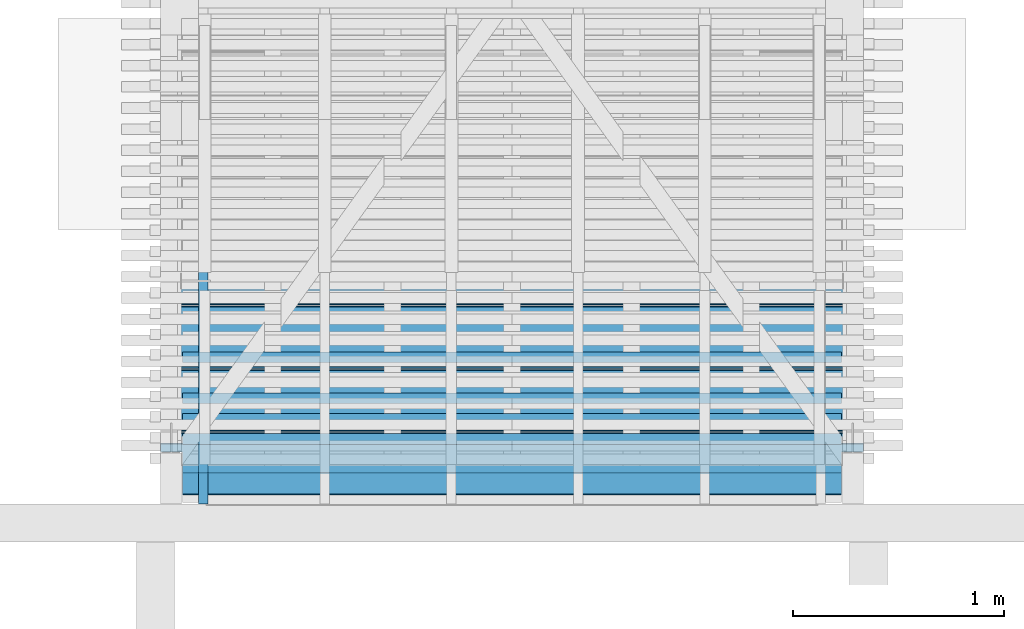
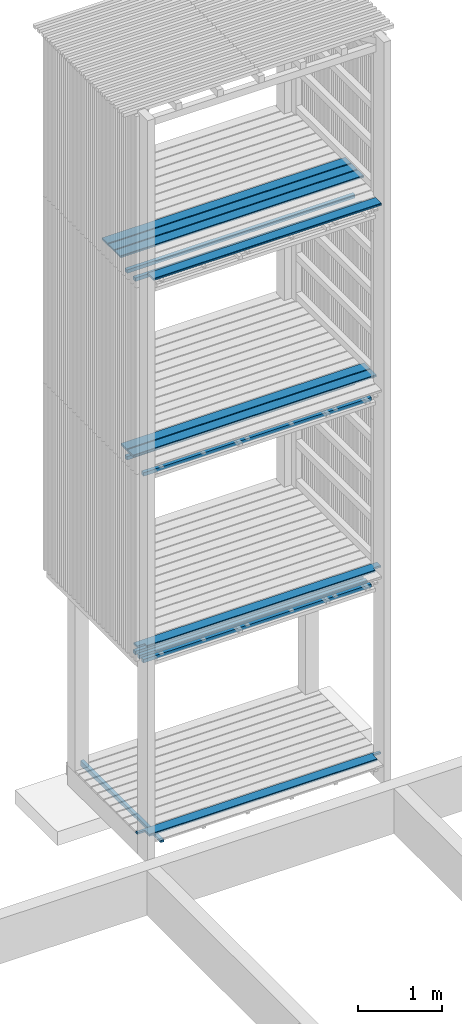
# One storey, part 137 of 182: 16 beams.
"""IFC2X3 building model written with IfcOpenShell, lengths in metres."""

from ifc_helpers import new_model, si_unit, frame, origin, place, context, project, spatial, faceted_brep, element, save


model = new_model("IFC2X3")

# Units and contexts
model_context = context("Model", 3, precision=1e-06, world=origin())
ifc_project = project(units=[si_unit("LENGTHUNIT", "METRE"), si_unit("PLANEANGLEUNIT", "RADIAN")], contexts=[model_context])

# Site, building, storey
site = spatial("IfcSite", under=ifc_project, CompositionType="ELEMENT")
building = spatial("IfcBuilding", under=site, CompositionType="ELEMENT")
storey = spatial("IfcBuildingStorey", under=building, Name="vs", CompositionType="ELEMENT", Elevation=-0.85)

# Beams
placement = place(None, origin())
beam_1_placement = place(placement, frame((36.27999999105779, 10.970702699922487, 7.867999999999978), z_axis=(0.0, 0.0, 1.0), x_axis=(-1.0, 0.0, 0.0)))
element("IfcBeam", 1, at=beam_1_placement, inside=storey, Name="Bardage", context=model_context, shape_type="Brep", body=[
    faceted_brep([(3.120000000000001, 0.024999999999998, -0.025000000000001), (3.120000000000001, -0.025000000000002, -0.025000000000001), (-3e-15, -0.025000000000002, -0.025000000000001), (-3e-15, 0.024999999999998, -0.025000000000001), (-3e-15, -0.025000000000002, -0.025000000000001), (3.120000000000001, -0.025000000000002, -0.025000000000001), (3.120000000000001, -0.025000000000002, 0.024999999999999), (-3e-15, -0.025000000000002, 0.024999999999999), (3.120000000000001, -0.025000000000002, -0.025000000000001), (3.120000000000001, 0.024999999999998, -0.025000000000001), (3.120000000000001, 0.024999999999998, 0.024999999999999), (3.120000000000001, -0.025000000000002, 0.024999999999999), (3.120000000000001, 0.024999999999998, 0.024999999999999), (3.120000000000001, 0.024999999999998, -0.025000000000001), (-3e-15, 0.024999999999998, -0.025000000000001), (-3e-15, 0.024999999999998, 0.024999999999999), (-3e-15, -0.025000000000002, 0.024999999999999), (3.120000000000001, -0.025000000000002, 0.024999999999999), (3.120000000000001, 0.024999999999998, 0.024999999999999), (-3e-15, 0.024999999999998, 0.024999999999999), (-3e-15, -0.025000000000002, -0.025000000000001), (-3e-15, -0.025000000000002, 0.024999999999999), (-3e-15, 0.024999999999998, 0.024999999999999), (-3e-15, 0.024999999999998, -0.025000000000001)], [[[0, 1, 2, 3]], [[4, 5, 6, 7]], [[8, 9, 10, 11]], [[12, 13, 14, 15]], [[16, 17, 18, 19]], [[20, 21, 22, 23]]]),
])
beam_2_placement = place(placement, frame((36.38499999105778, 10.684577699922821, 0.033500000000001), z_axis=(0.0, 0.0, 1.0), x_axis=(-1.0, 0.0, 0.0)))
element("IfcBeam", 2, at=beam_2_placement, inside=storey, Name="Caillebotis", context=model_context, shape_type="Brep", body=[
    faceted_brep([(0.0, -0.072499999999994, -0.0135), (0.0, -0.072499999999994, 0.008500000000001), (0.0, -0.067499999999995, 0.0135), (0.0, -0.030499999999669, 0.0135), (0.0, -0.030499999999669, -0.0135), (3.329999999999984, -0.067499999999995, 0.0135), (3.329999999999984, -0.030499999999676, 0.0135), (3.224999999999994, -0.030499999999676, 0.0135), (3.224999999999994, 0.067500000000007, 0.0135), (0.104999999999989, 0.067500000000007, 0.0135), (0.104999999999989, -0.030499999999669, 0.0135), (0.0, -0.030499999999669, 0.0135), (0.0, -0.067499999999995, 0.0135), (0.104999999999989, -0.030499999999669, 0.0135), (0.104999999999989, 0.067500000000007, 0.0135), (0.104999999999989, 0.072500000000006, 0.0085), (0.104999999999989, 0.072500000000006, -0.0135), (0.104999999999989, -0.030499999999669, -0.0135), (0.104999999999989, 0.072500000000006, 0.0085), (0.104999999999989, 0.067500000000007, 0.0135), (3.224999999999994, 0.067500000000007, 0.0135), (3.224999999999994, 0.072500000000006, 0.0085), (0.104999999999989, 0.072500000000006, -0.0135), (0.104999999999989, 0.072500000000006, 0.0085), (3.224999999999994, 0.072500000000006, 0.0085), (3.224999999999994, 0.072500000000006, -0.013500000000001), (3.224999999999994, 0.072500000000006, -0.013500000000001), (3.224999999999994, 0.072500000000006, 0.0085), (3.224999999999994, 0.067500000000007, 0.0135), (3.224999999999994, -0.030499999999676, 0.0135), (3.224999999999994, -0.030499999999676, -0.013500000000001), (3.224999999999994, -0.030499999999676, -0.013500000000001), (3.224999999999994, -0.030499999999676, 0.0135), (3.329999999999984, -0.030499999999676, 0.0135), (3.329999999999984, -0.030499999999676, -0.013500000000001), (3.329999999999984, -0.072499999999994, 0.008500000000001), (3.329999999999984, -0.072499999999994, -0.013500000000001), (3.329999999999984, -0.030499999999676, -0.013500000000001), (3.329999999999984, -0.030499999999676, 0.0135), (3.329999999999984, -0.067499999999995, 0.0135), (3.329999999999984, -0.072499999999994, 0.008500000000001), (3.329999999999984, -0.067499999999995, 0.0135), (0.0, -0.067499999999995, 0.0135), (0.0, -0.072499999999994, 0.008500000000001), (3.329999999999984, -0.072499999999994, -0.013500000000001), (3.329999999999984, -0.072499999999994, 0.008500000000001), (0.0, -0.072499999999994, 0.008500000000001), (0.0, -0.072499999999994, -0.0135), (0.104999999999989, -0.030499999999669, -0.0135), (0.104999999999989, 0.072500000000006, -0.0135), (3.224999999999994, 0.072500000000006, -0.013500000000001), (3.224999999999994, -0.030499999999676, -0.013500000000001), (3.329999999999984, -0.030499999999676, -0.013500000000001), (3.329999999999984, -0.072499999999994, -0.013500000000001), (0.0, -0.072499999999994, -0.0135), (0.0, -0.030499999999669, -0.0135), (0.0, -0.030499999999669, 0.0135), (0.104999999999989, -0.030499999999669, 0.0135), (0.104999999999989, -0.030499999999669, -0.0135), (0.0, -0.030499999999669, -0.0135)], [[[0, 1, 2, 3, 4]], [[5, 6, 7, 8, 9, 10, 11, 12]], [[13, 14, 15, 16, 17]], [[18, 19, 20, 21]], [[22, 23, 24, 25]], [[26, 27, 28, 29, 30]], [[31, 32, 33, 34]], [[35, 36, 37, 38, 39]], [[40, 41, 42, 43]], [[44, 45, 46, 47]], [[48, 49, 50, 51, 52, 53, 54, 55]], [[56, 57, 58, 59]]]),
])
beam_3_placement = place(placement, frame((36.384999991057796, 11.334577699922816, 8.13349999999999), z_axis=(0.0, 0.0, 1.0), x_axis=(-1.0, 0.0, 0.0)))
element("IfcBeam", 3, at=beam_3_placement, inside=storey, Name="Caillebotis", context=model_context, shape_type="Brep", body=[
    faceted_brep([(3.329999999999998, -0.072499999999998, -0.013500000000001), (3.329999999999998, 0.072500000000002, -0.013500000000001), (3.329999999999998, 0.072500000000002, 0.008499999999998), (3.329999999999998, 0.067500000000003, 0.013499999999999), (3.329999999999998, -0.067500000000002, 0.013499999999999), (3.329999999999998, -0.072499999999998, 0.0085), (0.0, -0.072499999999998, 0.0085), (0.0, -0.067500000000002, 0.013499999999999), (0.0, 0.067500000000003, 0.013499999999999), (0.0, 0.072499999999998, 0.008499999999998), (0.0, 0.072499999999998, -0.013500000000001), (0.0, -0.072499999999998, -0.013500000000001), (3.329999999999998, 0.072500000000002, 0.008499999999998), (3.329999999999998, 0.072500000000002, -0.013500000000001), (0.0, 0.072499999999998, -0.013500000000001), (0.0, 0.072499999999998, 0.008499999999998), (3.329999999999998, 0.067500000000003, 0.013499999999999), (3.329999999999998, 0.072500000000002, 0.008499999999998), (0.0, 0.072499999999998, 0.008499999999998), (0.0, 0.067500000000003, 0.013499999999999), (3.329999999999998, -0.067500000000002, 0.013499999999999), (3.329999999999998, 0.067500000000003, 0.013499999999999), (0.0, 0.067500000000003, 0.013499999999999), (0.0, -0.067500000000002, 0.013499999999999), (3.329999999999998, -0.072499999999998, 0.0085), (3.329999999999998, -0.067500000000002, 0.013499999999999), (0.0, -0.067500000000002, 0.013499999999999), (0.0, -0.072499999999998, 0.0085), (3.329999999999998, -0.072499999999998, -0.013500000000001), (3.329999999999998, -0.072499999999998, 0.0085), (0.0, -0.072499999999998, 0.0085), (0.0, -0.072499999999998, -0.013500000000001), (0.0, 0.072499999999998, -0.013500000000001), (3.329999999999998, 0.072500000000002, -0.013500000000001), (3.329999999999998, -0.072499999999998, -0.013500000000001), (0.0, -0.072499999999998, -0.013500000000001)], [[[0, 1, 2, 3, 4, 5]], [[6, 7, 8, 9, 10, 11]], [[12, 13, 14, 15]], [[16, 17, 18, 19]], [[20, 21, 22, 23]], [[24, 25, 26, 27]], [[28, 29, 30, 31]], [[32, 33, 34, 35]]]),
])
beam_4_placement = place(placement, frame((36.384999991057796, 10.884577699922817, 5.433499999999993), z_axis=(0.0, 0.0, 1.0), x_axis=(-1.0, -2e-15, 0.0)))
element("IfcBeam", 4, at=beam_4_placement, inside=storey, Name="Caillebotis", context=model_context, shape_type="Brep", body=[
    faceted_brep([(3.329999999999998, -0.072500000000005, -0.0135), (3.329999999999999, 0.072499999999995, -0.0135), (3.329999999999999, 0.072499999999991, 0.0085), (3.329999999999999, 0.067499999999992, 0.0135), (3.329999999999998, -0.067500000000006, 0.0135), (3.329999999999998, -0.072500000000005, 0.008500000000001), (0.0, -0.072500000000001, 0.008500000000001), (0.0, -0.067499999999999, 0.0135), (0.0, 0.067500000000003, 0.0135), (0.0, 0.072500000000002, 0.0085), (0.0, 0.072500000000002, -0.0135), (0.0, -0.072500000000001, -0.0135), (3.329999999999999, 0.072499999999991, 0.0085), (3.329999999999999, 0.072499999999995, -0.0135), (0.0, 0.072500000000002, -0.0135), (0.0, 0.072500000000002, 0.0085), (3.329999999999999, 0.067499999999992, 0.0135), (3.329999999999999, 0.072499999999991, 0.0085), (0.0, 0.072500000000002, 0.0085), (0.0, 0.067500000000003, 0.0135), (3.329999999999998, -0.067500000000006, 0.0135), (3.329999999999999, 0.067499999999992, 0.0135), (0.0, 0.067500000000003, 0.0135), (0.0, -0.067499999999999, 0.0135), (3.329999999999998, -0.072500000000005, 0.008500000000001), (3.329999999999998, -0.067500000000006, 0.0135), (0.0, -0.067499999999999, 0.0135), (0.0, -0.072500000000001, 0.008500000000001), (3.329999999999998, -0.072500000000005, -0.0135), (3.329999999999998, -0.072500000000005, 0.008500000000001), (0.0, -0.072500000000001, 0.008500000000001), (0.0, -0.072500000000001, -0.0135), (0.0, 0.072500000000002, -0.0135), (3.329999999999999, 0.072499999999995, -0.0135), (3.329999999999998, -0.072500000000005, -0.0135), (0.0, -0.072500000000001, -0.0135)], [[[0, 1, 2, 3, 4, 5]], [[6, 7, 8, 9, 10, 11]], [[12, 13, 14, 15]], [[16, 17, 18, 19]], [[20, 21, 22, 23]], [[24, 25, 26, 27]], [[28, 29, 30, 31]], [[32, 33, 34, 35]]]),
])
beam_5_placement = place(placement, frame((36.27999999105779, 10.584577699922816, 8.13349999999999), z_axis=(0.0, 0.0, 1.0), x_axis=(-1.0, 0.0, 0.0)))
element("IfcBeam", 5, at=beam_5_placement, inside=storey, Name="Caillebotis", context=model_context, shape_type="Brep", body=[
    faceted_brep([(-3e-15, -0.072500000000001, 0.008500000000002), (-3e-15, -0.067500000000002, 0.013499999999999), (-3e-15, 0.067499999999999, 0.013499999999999), (-3e-15, 0.072499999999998, 0.0085), (-3e-15, 0.072499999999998, -0.013500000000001), (-3e-15, -0.072500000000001, -0.013500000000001), (-3e-15, 0.072499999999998, -0.013500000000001), (-3e-15, 0.072499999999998, 0.0085), (3.120000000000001, 0.072499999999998, 0.008499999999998), (3.120000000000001, 0.072499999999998, -0.013500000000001), (-3e-15, -0.072500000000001, -0.013500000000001), (-3e-15, 0.072499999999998, -0.013500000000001), (3.120000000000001, 0.072499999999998, -0.013500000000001), (3.120000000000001, -0.072500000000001, -0.013500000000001), (-3e-15, -0.072500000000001, 0.008500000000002), (-3e-15, -0.072500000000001, -0.013500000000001), (3.120000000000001, -0.072500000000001, -0.013500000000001), (3.120000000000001, -0.072500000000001, 0.0085), (-3e-15, -0.067500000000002, 0.013499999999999), (-3e-15, -0.072500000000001, 0.008500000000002), (3.120000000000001, -0.072500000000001, 0.0085), (3.120000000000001, -0.067500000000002, 0.013499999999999), (-3e-15, 0.067499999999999, 0.013499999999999), (-3e-15, -0.067500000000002, 0.013499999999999), (3.120000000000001, -0.067500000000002, 0.013499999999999), (3.120000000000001, 0.067499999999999, 0.013499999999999), (-3e-15, 0.072499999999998, 0.0085), (-3e-15, 0.067499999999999, 0.013499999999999), (3.120000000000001, 0.067499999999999, 0.013499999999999), (3.120000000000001, 0.072499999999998, 0.008499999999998), (3.120000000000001, -0.072500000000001, -0.013500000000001), (3.120000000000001, 0.072499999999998, -0.013500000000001), (3.120000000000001, 0.072499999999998, 0.008499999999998), (3.120000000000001, 0.067499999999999, 0.013499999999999), (3.120000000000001, -0.067500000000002, 0.013499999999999), (3.120000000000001, -0.072500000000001, 0.0085)], [[[0, 1, 2, 3, 4, 5]], [[6, 7, 8, 9]], [[10, 11, 12, 13]], [[14, 15, 16, 17]], [[18, 19, 20, 21]], [[22, 23, 24, 25]], [[26, 27, 28, 29]], [[30, 31, 32, 33, 34, 35]]]),
])
beam_6_placement = place(placement, frame((36.384999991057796, 11.034577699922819, 5.433499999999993), z_axis=(0.0, 0.0, 1.0), x_axis=(-1.0, -1e-15, 0.0)))
element("IfcBeam", 6, at=beam_6_placement, inside=storey, Name="Caillebotis", context=model_context, shape_type="Brep", body=[
    faceted_brep([(3.329999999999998, -0.072500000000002, -0.0135), (3.329999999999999, 0.072500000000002, -0.0135), (3.329999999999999, 0.072500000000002, 0.0085), (3.329999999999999, 0.067499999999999, 0.0135), (3.329999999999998, -0.067499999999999, 0.0135), (3.329999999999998, -0.072500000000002, 0.008500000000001), (0.0, -0.072499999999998, 0.008500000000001), (0.0, -0.067499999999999, 0.0135), (0.0, 0.067500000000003, 0.0135), (0.0, 0.072500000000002, 0.0085), (0.0, 0.072500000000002, -0.0135), (0.0, -0.072499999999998, -0.0135), (3.329999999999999, 0.072500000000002, 0.0085), (3.329999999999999, 0.072500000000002, -0.0135), (0.0, 0.072500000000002, -0.0135), (0.0, 0.072500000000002, 0.0085), (3.329999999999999, 0.067499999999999, 0.0135), (3.329999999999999, 0.072500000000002, 0.0085), (0.0, 0.072500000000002, 0.0085), (0.0, 0.067500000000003, 0.0135), (3.329999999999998, -0.067499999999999, 0.0135), (3.329999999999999, 0.067499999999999, 0.0135), (0.0, 0.067500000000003, 0.0135), (0.0, -0.067499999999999, 0.0135), (3.329999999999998, -0.072500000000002, 0.008500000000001), (3.329999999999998, -0.067499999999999, 0.0135), (0.0, -0.067499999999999, 0.0135), (0.0, -0.072499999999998, 0.008500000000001), (3.329999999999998, -0.072500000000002, -0.0135), (3.329999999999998, -0.072500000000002, 0.008500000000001), (0.0, -0.072499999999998, 0.008500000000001), (0.0, -0.072499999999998, -0.0135), (0.0, 0.072500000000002, -0.0135), (3.329999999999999, 0.072500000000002, -0.0135), (3.329999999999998, -0.072500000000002, -0.0135), (0.0, -0.072499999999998, -0.0135)], [[[0, 1, 2, 3, 4, 5]], [[6, 7, 8, 9, 10, 11]], [[12, 13, 14, 15]], [[16, 17, 18, 19]], [[20, 21, 22, 23]], [[24, 25, 26, 27]], [[28, 29, 30, 31]], [[32, 33, 34, 35]]]),
])
beam_7_placement = place(placement, frame((36.384999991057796, 11.18457769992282, 8.13349999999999), z_axis=(0.0, 0.0, 1.0), x_axis=(-1.0, -2e-15, 0.0)))
element("IfcBeam", 7, at=beam_7_placement, inside=storey, Name="Caillebotis", context=model_context, shape_type="Brep", body=[
    faceted_brep([(3.329999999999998, -0.072500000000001, -0.013500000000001), (3.329999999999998, 0.072500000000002, -0.013500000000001), (3.329999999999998, 0.072499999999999, 0.008499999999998), (3.329999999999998, 0.0675, 0.013499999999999), (3.329999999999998, -0.067500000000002, 0.013499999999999), (3.329999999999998, -0.072500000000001, 0.0085), (0.0, -0.072499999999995, 0.0085), (0.0, -0.067499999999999, 0.013499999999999), (0.0, 0.067500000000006, 0.013499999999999), (0.0, 0.072500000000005, 0.008499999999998), (0.0, 0.072500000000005, -0.013500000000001), (0.0, -0.072499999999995, -0.013500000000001), (3.329999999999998, 0.072499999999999, 0.008499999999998), (3.329999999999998, 0.072500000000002, -0.013500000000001), (0.0, 0.072500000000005, -0.013500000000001), (0.0, 0.072500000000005, 0.008499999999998), (3.329999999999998, 0.0675, 0.013499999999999), (3.329999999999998, 0.072499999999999, 0.008499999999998), (0.0, 0.072500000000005, 0.008499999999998), (0.0, 0.067500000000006, 0.013499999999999), (3.329999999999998, -0.067500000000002, 0.013499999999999), (3.329999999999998, 0.0675, 0.013499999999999), (0.0, 0.067500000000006, 0.013499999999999), (0.0, -0.067499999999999, 0.013499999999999), (3.329999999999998, -0.072500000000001, 0.0085), (3.329999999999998, -0.067500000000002, 0.013499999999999), (0.0, -0.067499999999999, 0.013499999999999), (0.0, -0.072499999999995, 0.0085), (3.329999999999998, -0.072500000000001, -0.013500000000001), (3.329999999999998, -0.072500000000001, 0.0085), (0.0, -0.072499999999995, 0.0085), (0.0, -0.072499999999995, -0.013500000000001), (0.0, 0.072500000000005, -0.013500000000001), (3.329999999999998, 0.072500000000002, -0.013500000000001), (3.329999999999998, -0.072500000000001, -0.013500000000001), (0.0, -0.072499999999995, -0.013500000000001)], [[[0, 1, 2, 3, 4, 5]], [[6, 7, 8, 9, 10, 11]], [[12, 13, 14, 15]], [[16, 17, 18, 19]], [[20, 21, 22, 23]], [[24, 25, 26, 27]], [[28, 29, 30, 31]], [[32, 33, 34, 35]]]),
])
beam_8_placement = place(placement, frame((36.27999999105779, 10.873827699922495, 2.467999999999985), z_axis=(0.0, 0.0, 1.0), x_axis=(-1.0, 0.0, 0.0)))
element("IfcBeam", 8, at=beam_8_placement, inside=storey, Name="Bardage", context=model_context, shape_type="Brep", body=[
    faceted_brep([(3.120000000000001, 0.025000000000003, -0.025), (3.120000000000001, -0.024999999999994, -0.025), (-3e-15, -0.024999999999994, -0.025), (-3e-15, 0.025000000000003, -0.025), (-3e-15, -0.024999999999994, -0.025), (3.120000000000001, -0.024999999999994, -0.025), (3.120000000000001, -0.024999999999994, 0.025), (-3e-15, -0.024999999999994, 0.025), (3.120000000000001, -0.024999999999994, -0.025), (3.120000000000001, 0.025000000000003, -0.025), (3.120000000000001, 0.025000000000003, 0.025), (3.120000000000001, -0.024999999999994, 0.025), (3.120000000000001, 0.025000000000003, 0.025), (3.120000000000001, 0.025000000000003, -0.025), (-3e-15, 0.025000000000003, -0.025), (-3e-15, 0.025000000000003, 0.025), (-3e-15, -0.024999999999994, 0.025), (3.120000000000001, -0.024999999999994, 0.025), (3.120000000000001, 0.025000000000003, 0.025), (-3e-15, 0.025000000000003, 0.025), (-3e-15, -0.024999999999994, -0.025), (-3e-15, -0.024999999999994, 0.025), (-3e-15, 0.025000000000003, 0.025), (-3e-15, 0.025000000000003, -0.025)], [[[0, 1, 2, 3]], [[4, 5, 6, 7]], [[8, 9, 10, 11]], [[12, 13, 14, 15]], [[16, 17, 18, 19]], [[20, 21, 22, 23]]]),
])
beam_9_placement = place(placement, frame((36.27999999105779, 11.164452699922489, 5.167999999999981), z_axis=(0.0, 0.0, 1.0), x_axis=(-1.0, 0.0, 0.0)))
element("IfcBeam", 9, at=beam_9_placement, inside=storey, Name="Bardage", context=model_context, shape_type="Brep", body=[
    faceted_brep([(3.120000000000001, 0.025000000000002, -0.025), (3.120000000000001, -0.024999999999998, -0.025), (-3e-15, -0.024999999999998, -0.025), (-3e-15, 0.024999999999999, -0.025), (-3e-15, -0.024999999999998, -0.025), (3.120000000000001, -0.024999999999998, -0.025), (3.120000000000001, -0.024999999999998, 0.025000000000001), (-3e-15, -0.024999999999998, 0.025000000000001), (3.120000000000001, -0.024999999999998, -0.025), (3.120000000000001, 0.025000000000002, -0.025), (3.120000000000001, 0.025000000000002, 0.025000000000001), (3.120000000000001, -0.024999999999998, 0.025000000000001), (3.120000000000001, 0.025000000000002, 0.025000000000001), (3.120000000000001, 0.025000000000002, -0.025), (-3e-15, 0.024999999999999, -0.025), (-3e-15, 0.024999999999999, 0.025000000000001), (-3e-15, -0.024999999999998, 0.025000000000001), (3.120000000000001, -0.024999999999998, 0.025000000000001), (3.120000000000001, 0.025000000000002, 0.025000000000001), (-3e-15, 0.024999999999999, 0.025000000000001), (-3e-15, -0.024999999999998, -0.025), (-3e-15, -0.024999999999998, 0.025000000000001), (-3e-15, 0.024999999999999, 0.025000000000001), (-3e-15, 0.024999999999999, -0.025)], [[[0, 1, 2, 3]], [[4, 5, 6, 7]], [[8, 9, 10, 11]], [[12, 13, 14, 15]], [[16, 17, 18, 19]], [[20, 21, 22, 23]]]),
])
beam_10_placement = place(placement, frame((36.384999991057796, 10.734577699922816, 2.733499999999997), z_axis=(0.0, 0.0, 1.0), x_axis=(-1.0, 0.0, 0.0)))
element("IfcBeam", 10, at=beam_10_placement, inside=storey, Name="Caillebotis", context=model_context, shape_type="Brep", body=[
    faceted_brep([(0.0, -0.072499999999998, -0.0135), (0.0, -0.072499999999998, 0.008500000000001), (0.0, -0.067499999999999, 0.0135), (0.0, 0.019500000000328, 0.0135), (0.0, 0.019500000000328, -0.0135), (3.329999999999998, -0.067499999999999, 0.0135), (3.329999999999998, 0.019500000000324, 0.0135), (3.225000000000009, 0.019500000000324, 0.0135), (3.225000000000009, 0.067500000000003, 0.0135), (0.105000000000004, 0.067500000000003, 0.0135), (0.105000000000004, 0.019500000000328, 0.0135), (0.0, 0.019500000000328, 0.0135), (0.0, -0.067499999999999, 0.0135), (0.105000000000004, 0.019500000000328, 0.0135), (0.105000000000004, 0.067500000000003, 0.0135), (0.105000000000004, 0.072500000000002, 0.0085), (0.105000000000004, 0.072500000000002, -0.0135), (0.105000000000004, 0.019500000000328, -0.0135), (0.105000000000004, 0.072500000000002, 0.0085), (0.105000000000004, 0.067500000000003, 0.0135), (3.225000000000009, 0.067500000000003, 0.0135), (3.225000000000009, 0.072500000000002, 0.0085), (0.105000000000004, 0.072500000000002, -0.0135), (0.105000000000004, 0.072500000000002, 0.0085), (3.225000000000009, 0.072500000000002, 0.0085), (3.225000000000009, 0.072500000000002, -0.0135), (3.225000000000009, 0.072500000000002, -0.0135), (3.225000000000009, 0.072500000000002, 0.0085), (3.225000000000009, 0.067500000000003, 0.0135), (3.225000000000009, 0.019500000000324, 0.0135), (3.225000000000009, 0.019500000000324, -0.0135), (3.225000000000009, 0.019500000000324, -0.0135), (3.225000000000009, 0.019500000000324, 0.0135), (3.329999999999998, 0.019500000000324, 0.0135), (3.329999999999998, 0.019500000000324, -0.0135), (3.329999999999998, -0.072499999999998, 0.008500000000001), (3.329999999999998, -0.072499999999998, -0.0135), (3.329999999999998, 0.019500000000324, -0.0135), (3.329999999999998, 0.019500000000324, 0.0135), (3.329999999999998, -0.067499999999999, 0.0135), (3.329999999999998, -0.072499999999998, 0.008500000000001), (3.329999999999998, -0.067499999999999, 0.0135), (0.0, -0.067499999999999, 0.0135), (0.0, -0.072499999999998, 0.008500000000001), (3.329999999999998, -0.072499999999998, -0.0135), (3.329999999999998, -0.072499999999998, 0.008500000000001), (0.0, -0.072499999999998, 0.008500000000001), (0.0, -0.072499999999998, -0.0135), (0.105000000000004, 0.019500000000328, -0.0135), (0.105000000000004, 0.072500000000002, -0.0135), (3.225000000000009, 0.072500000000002, -0.0135), (3.225000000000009, 0.019500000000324, -0.0135), (3.329999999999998, 0.019500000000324, -0.0135), (3.329999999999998, -0.072499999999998, -0.0135), (0.0, -0.072499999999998, -0.0135), (0.0, 0.019500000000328, -0.0135), (0.0, 0.019500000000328, 0.0135), (0.105000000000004, 0.019500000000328, 0.0135), (0.105000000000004, 0.019500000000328, -0.0135), (0.0, 0.019500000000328, -0.0135)], [[[0, 1, 2, 3, 4]], [[5, 6, 7, 8, 9, 10, 11, 12]], [[13, 14, 15, 16, 17]], [[18, 19, 20, 21]], [[22, 23, 24, 25]], [[26, 27, 28, 29, 30]], [[31, 32, 33, 34]], [[35, 36, 37, 38, 39]], [[40, 41, 42, 43]], [[44, 45, 46, 47]], [[48, 49, 50, 51, 52, 53, 54, 55]], [[56, 57, 58, 59]]]),
])
beam_11_placement = place(placement, frame((36.27999999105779, 11.164452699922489, 7.867999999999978), z_axis=(0.0, 0.0, 1.0), x_axis=(-1.0, 0.0, 0.0)))
element("IfcBeam", 11, at=beam_11_placement, inside=storey, Name="Bardage", context=model_context, shape_type="Brep", body=[
    faceted_brep([(3.120000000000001, 0.025000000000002, -0.025000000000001), (3.120000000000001, -0.024999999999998, -0.025000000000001), (-3e-15, -0.024999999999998, -0.025000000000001), (-3e-15, 0.024999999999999, -0.025000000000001), (-3e-15, -0.024999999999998, -0.025000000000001), (3.120000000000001, -0.024999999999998, -0.025000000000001), (3.120000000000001, -0.024999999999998, 0.024999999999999), (-3e-15, -0.024999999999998, 0.024999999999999), (3.120000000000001, -0.024999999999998, -0.025000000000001), (3.120000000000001, 0.025000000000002, -0.025000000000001), (3.120000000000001, 0.025000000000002, 0.024999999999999), (3.120000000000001, -0.024999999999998, 0.024999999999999), (3.120000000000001, 0.025000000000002, 0.024999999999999), (3.120000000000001, 0.025000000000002, -0.025000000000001), (-3e-15, 0.024999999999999, -0.025000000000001), (-3e-15, 0.024999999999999, 0.024999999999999), (-3e-15, -0.024999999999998, 0.024999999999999), (3.120000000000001, -0.024999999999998, 0.024999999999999), (3.120000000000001, 0.025000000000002, 0.024999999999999), (-3e-15, 0.024999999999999, 0.024999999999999), (-3e-15, -0.024999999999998, -0.025000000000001), (-3e-15, -0.024999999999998, 0.024999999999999), (-3e-15, 0.024999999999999, 0.024999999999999), (-3e-15, 0.024999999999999, -0.025000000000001)], [[[0, 1, 2, 3]], [[4, 5, 6, 7]], [[8, 9, 10, 11]], [[12, 13, 14, 15]], [[16, 17, 18, 19]], [[20, 21, 22, 23]]]),
])
beam_12_placement = place(placement, frame((36.27999999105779, 10.97070269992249, 2.467999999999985), z_axis=(0.0, 0.0, 1.0), x_axis=(-1.0, -1e-15, 0.0)))
element("IfcBeam", 12, at=beam_12_placement, inside=storey, Name="Bardage", context=model_context, shape_type="Brep", body=[
    faceted_brep([(3.120000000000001, 0.024999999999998, -0.025), (3.120000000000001, -0.025000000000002, -0.025), (-3e-15, -0.024999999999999, -0.025), (-3e-15, 0.025000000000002, -0.025), (-3e-15, -0.024999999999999, -0.025), (3.120000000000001, -0.025000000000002, -0.025), (3.120000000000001, -0.025000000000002, 0.025), (-3e-15, -0.024999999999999, 0.025), (3.120000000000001, -0.025000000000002, -0.025), (3.120000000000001, 0.024999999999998, -0.025), (3.120000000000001, 0.024999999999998, 0.025), (3.120000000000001, -0.025000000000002, 0.025), (3.120000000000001, 0.024999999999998, 0.025), (3.120000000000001, 0.024999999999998, -0.025), (-3e-15, 0.025000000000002, -0.025), (-3e-15, 0.025000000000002, 0.025), (-3e-15, -0.024999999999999, 0.025), (3.120000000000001, -0.025000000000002, 0.025), (3.120000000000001, 0.024999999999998, 0.025), (-3e-15, 0.025000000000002, 0.025), (-3e-15, -0.024999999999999, -0.025), (-3e-15, -0.024999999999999, 0.025), (-3e-15, 0.025000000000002, 0.025), (-3e-15, 0.025000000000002, -0.025)], [[[0, 1, 2, 3]], [[4, 5, 6, 7]], [[8, 9, 10, 11]], [[12, 13, 14, 15]], [[16, 17, 18, 19]], [[20, 21, 22, 23]]]),
])
beam_13_placement = place(placement, frame((36.384999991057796, 11.484577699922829, 8.13349999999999), z_axis=(0.0, 0.0, 1.0), x_axis=(-1.0, -8e-15, 0.0)))
element("IfcBeam", 13, at=beam_13_placement, inside=storey, Name="Caillebotis", context=model_context, shape_type="Brep", body=[
    faceted_brep([(3.329999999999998, -0.072500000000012, -0.013500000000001), (3.329999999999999, 0.072499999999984, -0.013500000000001), (3.329999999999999, 0.072499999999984, 0.008499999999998), (3.329999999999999, 0.067499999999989, 0.013499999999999), (3.329999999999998, -0.067500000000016, 0.013499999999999), (3.329999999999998, -0.072500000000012, 0.0085), (-1e-15, -0.072499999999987, 0.0085), (-1e-15, -0.067499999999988, 0.013499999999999), (1e-15, 0.067500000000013, 0.013499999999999), (1e-15, 0.072500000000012, 0.008499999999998), (1e-15, 0.072500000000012, -0.013500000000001), (-1e-15, -0.072499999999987, -0.013500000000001), (3.329999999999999, 0.072499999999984, 0.008499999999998), (3.329999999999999, 0.072499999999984, -0.013500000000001), (1e-15, 0.072500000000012, -0.013500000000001), (1e-15, 0.072500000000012, 0.008499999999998), (3.329999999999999, 0.067499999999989, 0.013499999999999), (3.329999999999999, 0.072499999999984, 0.008499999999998), (1e-15, 0.072500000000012, 0.008499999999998), (1e-15, 0.067500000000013, 0.013499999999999), (3.329999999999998, -0.067500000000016, 0.013499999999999), (3.329999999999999, 0.067499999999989, 0.013499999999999), (1e-15, 0.067500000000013, 0.013499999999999), (-1e-15, -0.067499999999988, 0.013499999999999), (3.329999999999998, -0.072500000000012, 0.0085), (3.329999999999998, -0.067500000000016, 0.013499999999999), (-1e-15, -0.067499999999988, 0.013499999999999), (-1e-15, -0.072499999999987, 0.0085), (3.329999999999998, -0.072500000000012, -0.013500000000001), (3.329999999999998, -0.072500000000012, 0.0085), (-1e-15, -0.072499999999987, 0.0085), (-1e-15, -0.072499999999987, -0.013500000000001), (1e-15, 0.072500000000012, -0.013500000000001), (3.329999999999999, 0.072499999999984, -0.013500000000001), (3.329999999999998, -0.072500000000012, -0.013500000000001), (-1e-15, -0.072499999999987, -0.013500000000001)], [[[0, 1, 2, 3, 4, 5]], [[6, 7, 8, 9, 10, 11]], [[12, 13, 14, 15]], [[16, 17, 18, 19]], [[20, 21, 22, 23]], [[24, 25, 26, 27]], [[28, 29, 30, 31]], [[32, 33, 34, 35]]]),
])
beam_14_placement = place(placement, frame((36.27999999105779, 10.776952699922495, 2.467999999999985), z_axis=(0.0, 0.0, 1.0), x_axis=(-1.0, 0.0, 0.0)))
element("IfcBeam", 14, at=beam_14_placement, inside=storey, Name="Bardage", context=model_context, shape_type="Brep", body=[
    faceted_brep([(3.120000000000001, 0.025000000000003, -0.025), (3.120000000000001, -0.024999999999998, -0.025), (-3e-15, -0.024999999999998, -0.025), (-3e-15, 0.025000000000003, -0.025), (-3e-15, -0.024999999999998, -0.025), (3.120000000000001, -0.024999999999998, -0.025), (3.120000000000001, -0.024999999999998, 0.025), (-3e-15, -0.024999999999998, 0.025), (3.120000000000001, -0.024999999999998, -0.025), (3.120000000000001, 0.025000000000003, -0.025), (3.120000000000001, 0.025000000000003, 0.025), (3.120000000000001, -0.024999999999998, 0.025), (3.120000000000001, 0.025000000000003, 0.025), (3.120000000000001, 0.025000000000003, -0.025), (-3e-15, 0.025000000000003, -0.025), (-3e-15, 0.025000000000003, 0.025), (-3e-15, -0.024999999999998, 0.025), (3.120000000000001, -0.024999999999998, 0.025), (3.120000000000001, 0.025000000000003, 0.025), (-3e-15, 0.025000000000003, 0.025), (-3e-15, -0.024999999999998, -0.025), (-3e-15, -0.024999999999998, 0.025), (-3e-15, 0.025000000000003, 0.025), (-3e-15, 0.025000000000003, -0.025)], [[[0, 1, 2, 3]], [[4, 5, 6, 7]], [[8, 9, 10, 11]], [[12, 13, 14, 15]], [[16, 17, 18, 19]], [[20, 21, 22, 23]]]),
])
beam_15_placement = place(placement, frame((36.27999999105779, 10.776952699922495, 5.167999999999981), z_axis=(0.0, 0.0, 1.0), x_axis=(-1.0, 0.0, 0.0)))
element("IfcBeam", 15, at=beam_15_placement, inside=storey, Name="Bardage", context=model_context, shape_type="Brep", body=[
    faceted_brep([(3.120000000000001, 0.025000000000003, -0.025), (3.120000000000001, -0.024999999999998, -0.025), (-3e-15, -0.024999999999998, -0.025), (-3e-15, 0.025000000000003, -0.025), (-3e-15, -0.024999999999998, -0.025), (3.120000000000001, -0.024999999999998, -0.025), (3.120000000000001, -0.024999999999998, 0.025000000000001), (-3e-15, -0.024999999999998, 0.025000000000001), (3.120000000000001, -0.024999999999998, -0.025), (3.120000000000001, 0.025000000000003, -0.025), (3.120000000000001, 0.025000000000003, 0.025000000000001), (3.120000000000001, -0.024999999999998, 0.025000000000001), (3.120000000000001, 0.025000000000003, 0.025000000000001), (3.120000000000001, 0.025000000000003, -0.025), (-3e-15, 0.025000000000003, -0.025), (-3e-15, 0.025000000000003, 0.025000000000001), (-3e-15, -0.024999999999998, 0.025000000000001), (3.120000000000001, -0.024999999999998, 0.025000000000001), (3.120000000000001, 0.025000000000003, 0.025000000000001), (-3e-15, 0.025000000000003, 0.025000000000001), (-3e-15, -0.024999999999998, -0.025), (-3e-15, -0.024999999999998, 0.025000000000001), (-3e-15, 0.025000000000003, 0.025000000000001), (-3e-15, 0.025000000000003, -0.025)], [[[0, 1, 2, 3]], [[4, 5, 6, 7]], [[8, 9, 10, 11]], [[12, 13, 14, 15]], [[16, 17, 18, 19]], [[20, 21, 22, 23]]]),
])
beam_16_placement = place(placement, frame((33.2574999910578, 10.470077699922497, -0.015599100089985), z_axis=(0.0, 0.0, 1.0), x_axis=(0.0, 1.0, 0.0)))
element("IfcBeam", 16, at=beam_16_placement, inside=storey, Name="Calage", context=model_context, shape_type="Brep", body=[
    faceted_brep([(0.0, 0.022500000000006, 0.002600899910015), (1.910000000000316, 0.022500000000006, -0.035599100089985), (1.910000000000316, -0.022499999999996, -0.035599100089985), (0.0, -0.022499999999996, 0.002600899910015), (0.0, -0.022499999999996, 0.035599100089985), (0.0, 0.022500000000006, 0.035599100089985), (0.0, 0.022500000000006, 0.002600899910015), (0.0, -0.022499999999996, 0.002600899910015), (0.0, 0.022500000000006, 0.035599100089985), (0.0, -0.022499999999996, 0.035599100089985), (1.910000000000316, -0.022499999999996, 0.035599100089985), (1.910000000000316, 0.022500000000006, 0.035599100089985), (0.0, 0.022500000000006, 0.002600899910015), (0.0, 0.022500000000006, 0.035599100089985), (1.910000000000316, 0.022500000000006, 0.035599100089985), (1.910000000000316, 0.022500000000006, -0.035599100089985), (1.910000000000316, 0.022500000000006, -0.035599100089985), (1.910000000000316, 0.022500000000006, 0.035599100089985), (1.910000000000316, -0.022499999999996, 0.035599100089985), (1.910000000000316, -0.022499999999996, -0.035599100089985), (1.910000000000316, -0.022499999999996, -0.035599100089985), (1.910000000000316, -0.022499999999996, 0.035599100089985), (0.0, -0.022499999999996, 0.035599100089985), (0.0, -0.022499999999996, 0.002600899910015)], [[[0, 1, 2, 3]], [[4, 5, 6, 7]], [[8, 9, 10, 11]], [[12, 13, 14, 15]], [[16, 17, 18, 19]], [[20, 21, 22, 23]]]),
])

save(model, "model.ifc")
